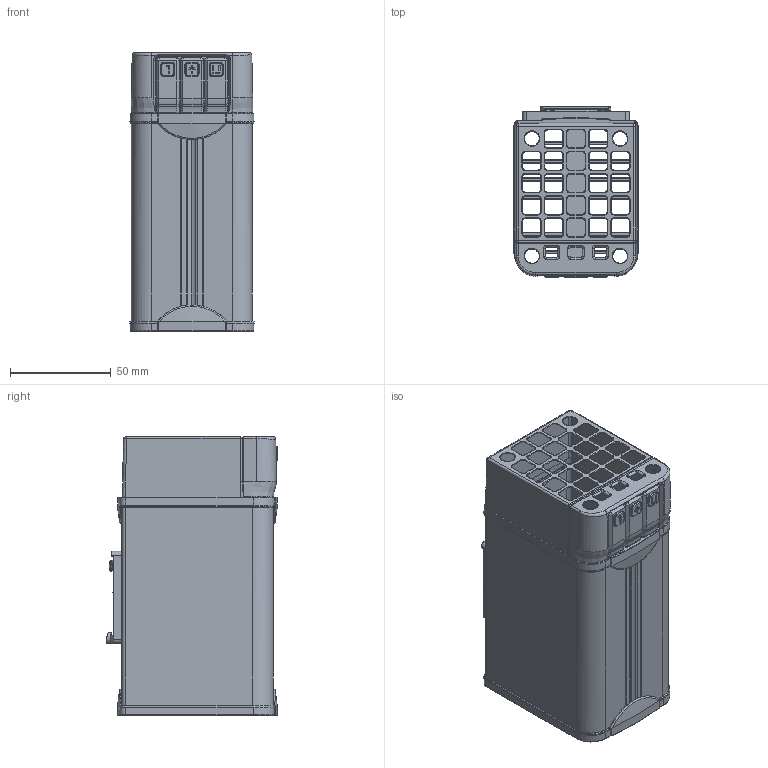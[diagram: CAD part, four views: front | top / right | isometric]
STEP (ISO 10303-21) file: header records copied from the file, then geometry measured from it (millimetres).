
FILE_DESCRIPTION(/* description */ (''),/* implementation_level */ '2;1');
FILE_NAME(/* name */ 'HTM060',/* time_stamp */ '2015-12-01T14:20:41+01:00',/* author */ (''),/* organization */ (''),/* preprocessor_version */ 'ST-DEVELOPER v10',/* originating_system */ '',/* authorisation */ '');
FILE_SCHEMA (('CONFIG_CONTROL_DESIGN'));
Length unit declared in the file: millimetre
Products named in the file (4): 1; 2; 3; 4
Assembly tree (4 placements, depth 2):
  1
    2
    3  x2
    4
Bounding box: 61.5 x 85.15 x 138.2 mm (x, y, z)
Volume: 7456.5 mm3; surface area: 53300 mm2
Topology: 4 solids, 7 shells, 1292 faces, 3460 edges, 2179 vertices
Faces by surface type: bspline 1000, plane 292
Entity records: 40734 total; most frequent: CARTESIAN_POINT 21938, ORIENTED_EDGE 6268, EDGE_CURVE 3434, VERTEX_POINT 2169, B_SPLINE_CURVE_WITH_KNOTS 1628, EDGE_LOOP 1361, ADVANCED_FACE 1283, FACE_OUTER_BOUND 1283
